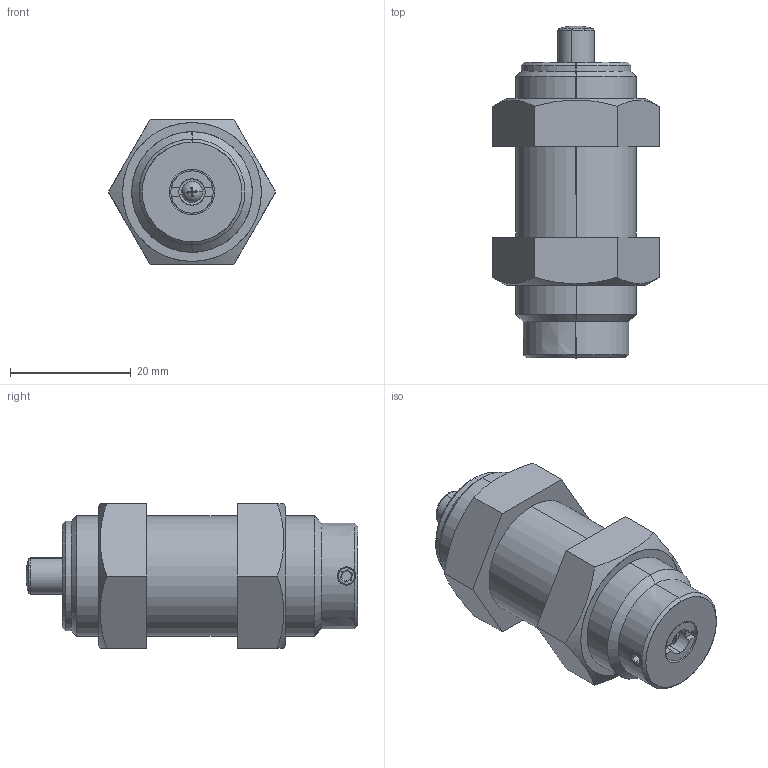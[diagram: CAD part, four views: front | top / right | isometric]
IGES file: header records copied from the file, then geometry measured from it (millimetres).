
Start section: SolidWorks IGES file using analytic representation for surfaces
Bounding box: 27.71 x 55 x 24 mm (x, y, z)
Surface area: 6454.4 mm2 (no closed solid volume)
Topology: 0 solids, 0 shells, 101 faces, 1187 edges, 1186 vertices
Faces by surface type: bspline 57, revolution 44
